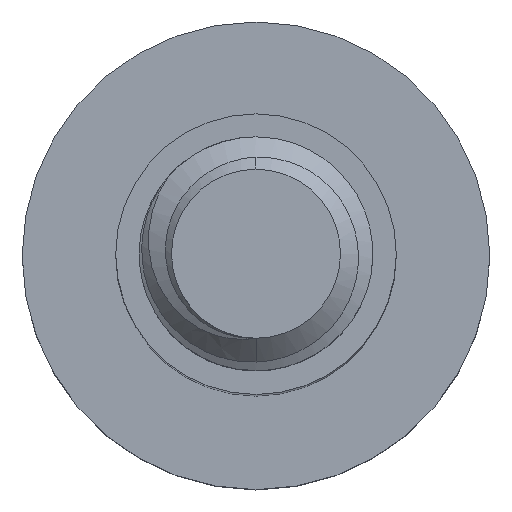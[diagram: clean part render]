
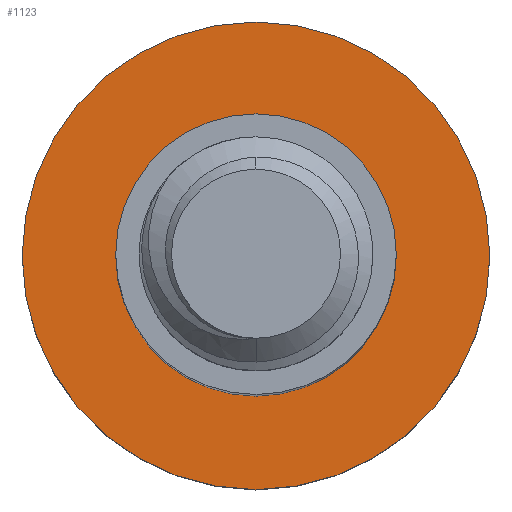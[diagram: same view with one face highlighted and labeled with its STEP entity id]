
A CAD part, top view. The second image highlights one B-rep face of the part: STEP entity #1123.
In plain terms, the highlighted planar face has unit normal (0, 0, 1).
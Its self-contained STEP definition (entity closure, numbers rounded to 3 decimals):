
#29 = CARTESIAN_POINT ( 'NONE',  ( 5., 0., -20. ) ) ;
#54 = AXIS2_PLACEMENT_3D ( 'NONE', #243, #1541, #1568 ) ;
#57 = CARTESIAN_POINT ( 'NONE',  ( 0., 0., -20. ) ) ;
#94 = DIRECTION ( 'NONE',  ( 0., 0., -1. ) ) ;
#116 = VERTEX_POINT ( 'NONE', #2129 ) ;
#162 = EDGE_LOOP ( 'NONE', ( #2046, #222 ) ) ;
#222 = ORIENTED_EDGE ( 'NONE', *, *, #1318, .F. ) ;
#243 = CARTESIAN_POINT ( 'NONE',  ( 0., 0., -20. ) ) ;
#251 = CIRCLE ( 'NONE', #54, 3. ) ;
#253 = DIRECTION ( 'NONE',  ( 0., 0., -1. ) ) ;
#371 = DIRECTION ( 'NONE',  ( 0., 0., -1. ) ) ;
#396 = CIRCLE ( 'NONE', #705, 5. ) ;
#543 = VERTEX_POINT ( 'NONE', #29 ) ;
#673 = VERTEX_POINT ( 'NONE', #1463 ) ;
#705 = AXIS2_PLACEMENT_3D ( 'NONE', #57, #94, #823 ) ;
#729 = EDGE_CURVE ( 'NONE', #2341, #673, #251, .T. ) ;
#788 = PLANE ( 'NONE',  #1870 ) ;
#823 = DIRECTION ( 'NONE',  ( -1., 0., 0. ) ) ;
#925 = DIRECTION ( 'NONE',  ( -1., 0., 0. ) ) ;
#1074 = EDGE_LOOP ( 'NONE', ( #1171, #1098 ) ) ;
#1098 = ORIENTED_EDGE ( 'NONE', *, *, #729, .T. ) ;
#1117 = CIRCLE ( 'NONE', #1748, 3. ) ;
#1123 = ADVANCED_FACE ( 'NONE', ( #1909, #2076 ), #788, .F. ) ;
#1171 = ORIENTED_EDGE ( 'NONE', *, *, #1771, .T. ) ;
#1318 = EDGE_CURVE ( 'NONE', #116, #543, #396, .T. ) ;
#1432 = CARTESIAN_POINT ( 'NONE',  ( 3., 0., -20. ) ) ;
#1459 = CARTESIAN_POINT ( 'NONE',  ( 0., 0., -20. ) ) ;
#1463 = CARTESIAN_POINT ( 'NONE',  ( -3., 0., -20. ) ) ;
#1469 = AXIS2_PLACEMENT_3D ( 'NONE', #2034, #371, #925 ) ;
#1525 = DIRECTION ( 'NONE',  ( -1., 0., 0. ) ) ;
#1541 = DIRECTION ( 'NONE',  ( 0., 0., -1. ) ) ;
#1568 = DIRECTION ( 'NONE',  ( -1., 0., 0. ) ) ;
#1719 = CARTESIAN_POINT ( 'NONE',  ( 0., 0., -20. ) ) ;
#1723 = EDGE_CURVE ( 'NONE', #543, #116, #2296, .T. ) ;
#1748 = AXIS2_PLACEMENT_3D ( 'NONE', #1459, #2199, #2009 ) ;
#1771 = EDGE_CURVE ( 'NONE', #673, #2341, #1117, .T. ) ;
#1870 = AXIS2_PLACEMENT_3D ( 'NONE', #1719, #253, #1525 ) ;
#1909 = FACE_BOUND ( 'NONE', #1074, .T. ) ;
#2009 = DIRECTION ( 'NONE',  ( -1., 0., 0. ) ) ;
#2034 = CARTESIAN_POINT ( 'NONE',  ( 0., 0., -20. ) ) ;
#2046 = ORIENTED_EDGE ( 'NONE', *, *, #1723, .F. ) ;
#2076 = FACE_OUTER_BOUND ( 'NONE', #162, .T. ) ;
#2129 = CARTESIAN_POINT ( 'NONE',  ( -5., 0., -20. ) ) ;
#2199 = DIRECTION ( 'NONE',  ( 0., 0., -1. ) ) ;
#2296 = CIRCLE ( 'NONE', #1469, 5. ) ;
#2341 = VERTEX_POINT ( 'NONE', #1432 ) ;
